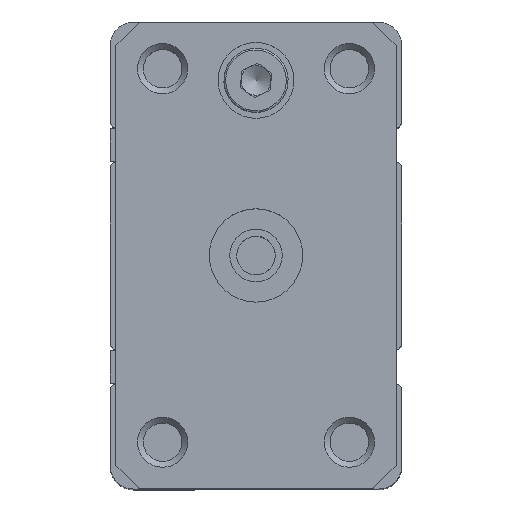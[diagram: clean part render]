
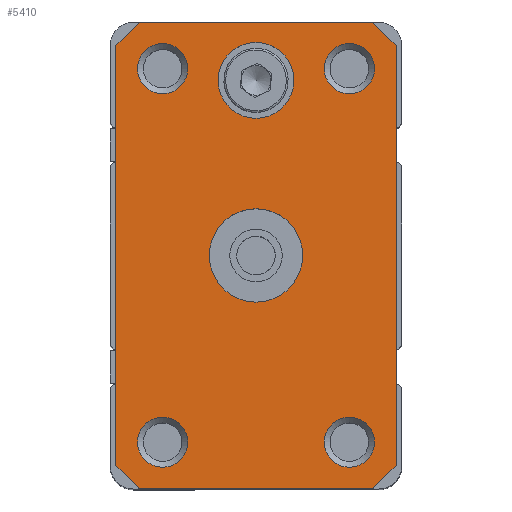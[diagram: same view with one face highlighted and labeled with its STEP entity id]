
A CAD part, top view. The second image highlights one B-rep face of the part: STEP entity #5410.
In plain terms, the highlighted planar face has unit normal (0, 0, 1).
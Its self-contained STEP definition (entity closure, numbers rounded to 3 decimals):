
#15 = CARTESIAN_POINT ( 'NONE',  ( 5.56, 27.25, 56. ) ) ;
#64 = ORIENTED_EDGE ( 'NONE', *, *, #3851, .F. ) ;
#161 = DIRECTION ( 'NONE',  ( -1., 0., 0. ) ) ;
#179 = AXIS2_PLACEMENT_3D ( 'NONE', #591, #4075, #1072 ) ;
#237 = DIRECTION ( 'NONE',  ( -1., 0., 0. ) ) ;
#266 = CARTESIAN_POINT ( 'NONE',  ( -14.59, 23.25, 56. ) ) ;
#385 = VERTEX_POINT ( 'NONE', #1675 ) ;
#393 = LINE ( 'NONE', #6213, #5680 ) ;
#419 = CARTESIAN_POINT ( 'NONE',  ( 7.56, 25.25, 56. ) ) ;
#423 = DIRECTION ( 'NONE',  ( 0.707, 0.707, 0. ) ) ;
#550 = VERTEX_POINT ( 'NONE', #3946 ) ;
#558 = VERTEX_POINT ( 'NONE', #3964 ) ;
#591 = CARTESIAN_POINT ( 'NONE',  ( 3.56, 23.25, 56. ) ) ;
#610 = DIRECTION ( 'NONE',  ( -0.707, -0.707, 0. ) ) ;
#707 = ORIENTED_EDGE ( 'NONE', *, *, #3685, .T. ) ;
#718 = CIRCLE ( 'NONE', #179, 2.15 ) ;
#795 = VERTEX_POINT ( 'NONE', #5130 ) ;
#879 = AXIS2_PLACEMENT_3D ( 'NONE', #2753, #6288, #3259 ) ;
#888 = EDGE_LOOP ( 'NONE', ( #2005, #64, #5276, #3737, #6324, #2377, #1616, #4796 ) ) ;
#896 = CARTESIAN_POINT ( 'NONE',  ( -14.44, 27.25, 56. ) ) ;
#902 = DIRECTION ( 'NONE',  ( 0., 0., -1. ) ) ;
#989 = CARTESIAN_POINT ( 'NONE',  ( -16.44, 25.25, 56. ) ) ;
#1072 = DIRECTION ( 'NONE',  ( -1., 0., 0. ) ) ;
#1099 = FACE_BOUND ( 'NONE', #3265, .T. ) ;
#1191 = CARTESIAN_POINT ( 'NONE',  ( 3.56, -8.75, 56. ) ) ;
#1257 = FACE_BOUND ( 'NONE', #4926, .T. ) ;
#1439 = VERTEX_POINT ( 'NONE', #989 ) ;
#1616 = ORIENTED_EDGE ( 'NONE', *, *, #2643, .F. ) ;
#1675 = CARTESIAN_POINT ( 'NONE',  ( 1.41, 23.25, 56. ) ) ;
#1689 = DIRECTION ( 'NONE',  ( -1., 0., 0. ) ) ;
#1733 = CARTESIAN_POINT ( 'NONE',  ( 7.56, -10.75, 56. ) ) ;
#1742 = VERTEX_POINT ( 'NONE', #4765 ) ;
#1889 = DIRECTION ( 'NONE',  ( 0., 0., 1. ) ) ;
#1952 = CIRCLE ( 'NONE', #3691, 4. ) ;
#1984 = AXIS2_PLACEMENT_3D ( 'NONE', #6199, #3167, #237 ) ;
#2005 = ORIENTED_EDGE ( 'NONE', *, *, #4563, .F. ) ;
#2033 = AXIS2_PLACEMENT_3D ( 'NONE', #1191, #4717, #1689 ) ;
#2118 = VECTOR ( 'NONE', #6019, 1000. ) ;
#2154 = ORIENTED_EDGE ( 'NONE', *, *, #3181, .F. ) ;
#2230 = CARTESIAN_POINT ( 'NONE',  ( -0.44, 7.25, 56. ) ) ;
#2302 = VERTEX_POINT ( 'NONE', #15 ) ;
#2323 = DIRECTION ( 'NONE',  ( 0., 0., -1. ) ) ;
#2345 = LINE ( 'NONE', #3592, #6209 ) ;
#2377 = ORIENTED_EDGE ( 'NONE', *, *, #4681, .F. ) ;
#2380 = DIRECTION ( 'NONE',  ( -1., 0., 0. ) ) ;
#2420 = FACE_BOUND ( 'NONE', #3277, .T. ) ;
#2453 = VECTOR ( 'NONE', #3071, 1000. ) ;
#2481 = LINE ( 'NONE', #896, #6344 ) ;
#2505 = VECTOR ( 'NONE', #610, 1000. ) ;
#2619 = VECTOR ( 'NONE', #4893, 1000. ) ;
#2643 = EDGE_CURVE ( 'NONE', #2879, #550, #4080, .T. ) ;
#2717 = VECTOR ( 'NONE', #5247, 1000. ) ;
#2753 = CARTESIAN_POINT ( 'NONE',  ( -4.44, 22.25, 56. ) ) ;
#2847 = EDGE_LOOP ( 'NONE', ( #707 ) ) ;
#2879 = VERTEX_POINT ( 'NONE', #419 ) ;
#3018 = EDGE_CURVE ( 'NONE', #385, #385, #718, .T. ) ;
#3065 = CARTESIAN_POINT ( 'NONE',  ( 5.56, -12.75, 56. ) ) ;
#3071 = DIRECTION ( 'NONE',  ( -0.707, 0.707, 0. ) ) ;
#3104 = CARTESIAN_POINT ( 'NONE',  ( -14.44, 27.25, 56. ) ) ;
#3140 = AXIS2_PLACEMENT_3D ( 'NONE', #5412, #902, #2380 ) ;
#3167 = DIRECTION ( 'NONE',  ( 0., 0., -1. ) ) ;
#3174 = CARTESIAN_POINT ( 'NONE',  ( -1.19, 22.25, 56. ) ) ;
#3181 = EDGE_CURVE ( 'NONE', #5359, #5359, #6269, .T. ) ;
#3185 = DIRECTION ( 'NONE',  ( 0., 1., 0. ) ) ;
#3228 = CARTESIAN_POINT ( 'NONE',  ( 7.56, 25.25, 56. ) ) ;
#3259 = DIRECTION ( 'NONE',  ( 1., 0., 0. ) ) ;
#3265 = EDGE_LOOP ( 'NONE', ( #4207 ) ) ;
#3277 = EDGE_LOOP ( 'NONE', ( #4696 ) ) ;
#3452 = VERTEX_POINT ( 'NONE', #5301 ) ;
#3592 = CARTESIAN_POINT ( 'NONE',  ( 5.56, -12.75, 56. ) ) ;
#3685 = EDGE_CURVE ( 'NONE', #6225, #6225, #5798, .T. ) ;
#3691 = AXIS2_PLACEMENT_3D ( 'NONE', #4924, #1889, #5416 ) ;
#3737 = ORIENTED_EDGE ( 'NONE', *, *, #6124, .F. ) ;
#3803 = EDGE_CURVE ( 'NONE', #2302, #2879, #5320, .T. ) ;
#3851 = EDGE_CURVE ( 'NONE', #1439, #5776, #2481, .T. ) ;
#3946 = CARTESIAN_POINT ( 'NONE',  ( 7.56, -10.75, 56. ) ) ;
#3964 = CARTESIAN_POINT ( 'NONE',  ( -16.44, -10.75, 56. ) ) ;
#4016 = LINE ( 'NONE', #3065, #2505 ) ;
#4075 = DIRECTION ( 'NONE',  ( 0., 0., -1. ) ) ;
#4080 = LINE ( 'NONE', #1733, #2717 ) ;
#4190 = CIRCLE ( 'NONE', #2033, 2.15 ) ;
#4207 = ORIENTED_EDGE ( 'NONE', *, *, #5042, .F. ) ;
#4260 = AXIS2_PLACEMENT_3D ( 'NONE', #5348, #2323, #5853 ) ;
#4267 = VERTEX_POINT ( 'NONE', #2230 ) ;
#4290 = VERTEX_POINT ( 'NONE', #4351 ) ;
#4351 = CARTESIAN_POINT ( 'NONE',  ( 5.56, -12.75, 56. ) ) ;
#4563 = EDGE_CURVE ( 'NONE', #5776, #2302, #5989, .T. ) ;
#4681 = EDGE_CURVE ( 'NONE', #550, #4290, #4016, .T. ) ;
#4696 = ORIENTED_EDGE ( 'NONE', *, *, #4983, .T. ) ;
#4711 = EDGE_CURVE ( 'NONE', #4290, #795, #2345, .T. ) ;
#4713 = EDGE_LOOP ( 'NONE', ( #5433 ) ) ;
#4717 = DIRECTION ( 'NONE',  ( 0., 0., -1. ) ) ;
#4765 = CARTESIAN_POINT ( 'NONE',  ( -14.59, -8.75, 56. ) ) ;
#4796 = ORIENTED_EDGE ( 'NONE', *, *, #3803, .F. ) ;
#4893 = DIRECTION ( 'NONE',  ( 0.707, -0.707, 0. ) ) ;
#4918 = PLANE ( 'NONE',  #3140 ) ;
#4924 = CARTESIAN_POINT ( 'NONE',  ( -4.44, 7.25, 56. ) ) ;
#4926 = EDGE_LOOP ( 'NONE', ( #5794 ) ) ;
#4972 = CIRCLE ( 'NONE', #4260, 2.15 ) ;
#4983 = EDGE_CURVE ( 'NONE', #1742, #1742, #4972, .T. ) ;
#5042 = EDGE_CURVE ( 'NONE', #4267, #4267, #1952, .T. ) ;
#5110 = FACE_BOUND ( 'NONE', #6033, .T. ) ;
#5130 = CARTESIAN_POINT ( 'NONE',  ( -14.44, -12.75, 56. ) ) ;
#5247 = DIRECTION ( 'NONE',  ( 0., -1., 0. ) ) ;
#5276 = ORIENTED_EDGE ( 'NONE', *, *, #6257, .F. ) ;
#5301 = CARTESIAN_POINT ( 'NONE',  ( 1.41, -8.75, 56. ) ) ;
#5320 = LINE ( 'NONE', #3228, #2619 ) ;
#5348 = CARTESIAN_POINT ( 'NONE',  ( -12.44, -8.75, 56. ) ) ;
#5359 = VERTEX_POINT ( 'NONE', #3174 ) ;
#5410 = ADVANCED_FACE ( 'NONE', ( #1257, #2420, #6444, #5426, #5110, #1099, #6278 ), #4918, .F. ) ;
#5412 = CARTESIAN_POINT ( 'NONE',  ( 7.56, 27.25, 56. ) ) ;
#5416 = DIRECTION ( 'NONE',  ( 1., 0., 0. ) ) ;
#5426 = FACE_BOUND ( 'NONE', #4713, .T. ) ;
#5433 = ORIENTED_EDGE ( 'NONE', *, *, #3018, .T. ) ;
#5482 = CARTESIAN_POINT ( 'NONE',  ( 5.56, 27.25, 56. ) ) ;
#5680 = VECTOR ( 'NONE', #3185, 1000. ) ;
#5776 = VERTEX_POINT ( 'NONE', #3104 ) ;
#5794 = ORIENTED_EDGE ( 'NONE', *, *, #6246, .T. ) ;
#5798 = CIRCLE ( 'NONE', #1984, 2.15 ) ;
#5853 = DIRECTION ( 'NONE',  ( -1., 0., 0. ) ) ;
#5989 = LINE ( 'NONE', #5482, #2118 ) ;
#6019 = DIRECTION ( 'NONE',  ( 1., 0., 0. ) ) ;
#6033 = EDGE_LOOP ( 'NONE', ( #2154 ) ) ;
#6104 = CARTESIAN_POINT ( 'NONE',  ( -14.44, -12.75, 56. ) ) ;
#6124 = EDGE_CURVE ( 'NONE', #795, #558, #6314, .T. ) ;
#6199 = CARTESIAN_POINT ( 'NONE',  ( -12.44, 23.25, 56. ) ) ;
#6209 = VECTOR ( 'NONE', #161, 1000. ) ;
#6213 = CARTESIAN_POINT ( 'NONE',  ( -16.44, -10.75, 56. ) ) ;
#6225 = VERTEX_POINT ( 'NONE', #266 ) ;
#6246 = EDGE_CURVE ( 'NONE', #3452, #3452, #4190, .T. ) ;
#6257 = EDGE_CURVE ( 'NONE', #558, #1439, #393, .T. ) ;
#6269 = CIRCLE ( 'NONE', #879, 3.25 ) ;
#6278 = FACE_OUTER_BOUND ( 'NONE', #888, .T. ) ;
#6288 = DIRECTION ( 'NONE',  ( 0., 0., 1. ) ) ;
#6314 = LINE ( 'NONE', #6104, #2453 ) ;
#6324 = ORIENTED_EDGE ( 'NONE', *, *, #4711, .F. ) ;
#6344 = VECTOR ( 'NONE', #423, 1000. ) ;
#6444 = FACE_BOUND ( 'NONE', #2847, .T. ) ;
